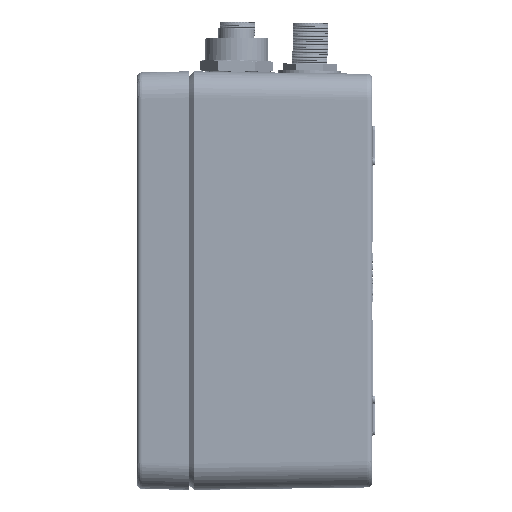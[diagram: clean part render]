
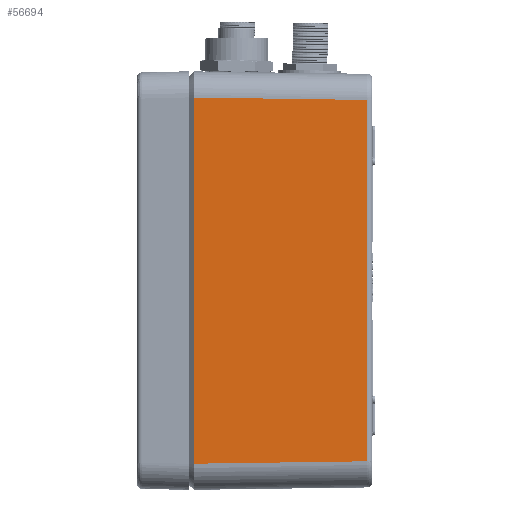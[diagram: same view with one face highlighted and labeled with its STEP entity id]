
A CAD part, left-side view. The second image highlights one B-rep face of the part: STEP entity #56694.
In plain terms, the highlighted planar face has unit normal (1, 0.014, 0).
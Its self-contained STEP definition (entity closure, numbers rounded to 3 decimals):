
#2368 = VERTEX_POINT ( 'NONE', #132261 ) ;
#15118 = VERTEX_POINT ( 'NONE', #112449 ) ;
#24907 = PLANE ( 'NONE',  #50023 ) ;
#25614 = DIRECTION ( 'NONE',  ( 0.014, -1., 0. ) ) ;
#29969 = CARTESIAN_POINT ( 'NONE',  ( -129.028, -68.028, 69.029 ) ) ;
#37577 = DIRECTION ( 'NONE',  ( 0.014, -1., 0.014 ) ) ;
#45547 = DIRECTION ( 'NONE',  ( 0., 0., -1. ) ) ;
#47859 = LINE ( 'NONE', #149643, #128547 ) ;
#50023 = AXIS2_PLACEMENT_3D ( 'NONE', #73499, #122117, #25614 ) ;
#50320 = ORIENTED_EDGE ( 'NONE', *, *, #61060, .F. ) ;
#56694 = ADVANCED_FACE ( 'NONE', ( #146930 ), #24907, .F. ) ;
#61060 = EDGE_CURVE ( 'NONE', #120687, #15118, #47859, .T. ) ;
#62680 = VECTOR ( 'NONE', #161068, 1000. ) ;
#62950 = EDGE_CURVE ( 'NONE', #77286, #15118, #191344, .T. ) ;
#73499 = CARTESIAN_POINT ( 'NONE',  ( -130., 2., -80. ) ) ;
#74030 = ORIENTED_EDGE ( 'NONE', *, *, #91718, .F. ) ;
#76062 = VECTOR ( 'NONE', #184987, 1000. ) ;
#77286 = VERTEX_POINT ( 'NONE', #29969 ) ;
#80167 = ORIENTED_EDGE ( 'NONE', *, *, #118419, .T. ) ;
#91177 = EDGE_LOOP ( 'NONE', ( #50320, #74030, #80167, #144249 ) ) ;
#91718 = EDGE_CURVE ( 'NONE', #2368, #120687, #202966, .T. ) ;
#112449 = CARTESIAN_POINT ( 'NONE',  ( -129.028, -68.028, -69.029 ) ) ;
#113099 = CARTESIAN_POINT ( 'NONE',  ( -129.028, -68.028, -80. ) ) ;
#117179 = VECTOR ( 'NONE', #45547, 1000. ) ;
#118419 = EDGE_CURVE ( 'NONE', #2368, #77286, #123972, .T. ) ;
#120687 = VERTEX_POINT ( 'NONE', #202188 ) ;
#122117 = DIRECTION ( 'NONE',  ( -1., -0.014, 0. ) ) ;
#123972 = LINE ( 'NONE', #134958, #76062 ) ;
#128547 = VECTOR ( 'NONE', #37577, 1000. ) ;
#132261 = CARTESIAN_POINT ( 'NONE',  ( -129.947, -1.79, 69.948 ) ) ;
#134958 = CARTESIAN_POINT ( 'NONE',  ( -129.971, -0.081, 69.972 ) ) ;
#144249 = ORIENTED_EDGE ( 'NONE', *, *, #62950, .T. ) ;
#146930 = FACE_OUTER_BOUND ( 'NONE', #91177, .T. ) ;
#149643 = CARTESIAN_POINT ( 'NONE',  ( -129.947, -1.79, -69.948 ) ) ;
#161068 = DIRECTION ( 'NONE',  ( 0., 0., -1. ) ) ;
#184987 = DIRECTION ( 'NONE',  ( 0.014, -1., -0.014 ) ) ;
#191344 = LINE ( 'NONE', #113099, #62680 ) ;
#202188 = CARTESIAN_POINT ( 'NONE',  ( -129.947, -1.79, -69.948 ) ) ;
#202966 = LINE ( 'NONE', #206899, #117179 ) ;
#206899 = CARTESIAN_POINT ( 'NONE',  ( -129.947, -1.79, -80. ) ) ;
